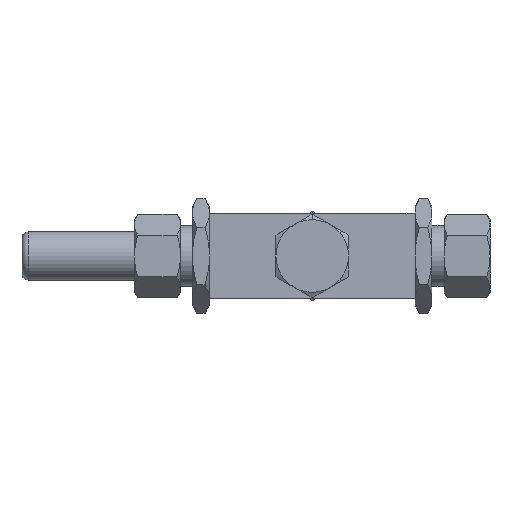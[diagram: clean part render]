
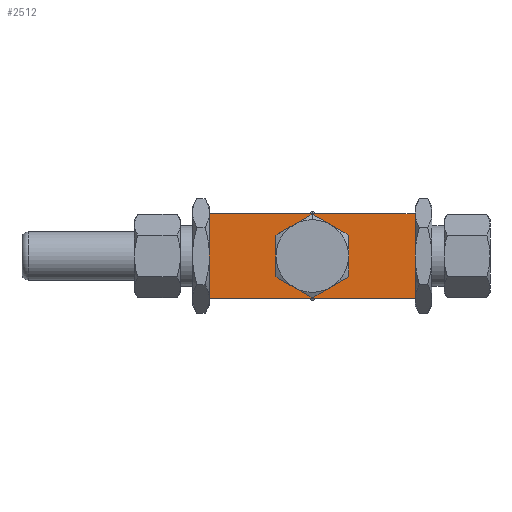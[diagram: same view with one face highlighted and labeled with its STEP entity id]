
A CAD part, front view. The second image highlights one B-rep face of the part: STEP entity #2512.
In plain terms, the highlighted planar face has unit normal (0, -1, 0).
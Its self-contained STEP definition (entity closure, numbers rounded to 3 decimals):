
#17 = CARTESIAN_POINT ( 'NONE',  ( -7.5, -32.5, 12.99 ) ) ;
#103 = CARTESIAN_POINT ( 'NONE',  ( -42.5, -32.5, 17.5 ) ) ;
#182 = CARTESIAN_POINT ( 'NONE',  ( -7.5, -32.5, -12.99 ) ) ;
#234 = VERTEX_POINT ( 'NONE', #2043 ) ;
#237 = EDGE_CURVE ( 'NONE', #4442, #5102, #5067, .T. ) ;
#281 = AXIS2_PLACEMENT_3D ( 'NONE', #408, #848, #914 ) ;
#292 = DIRECTION ( 'NONE',  ( 0., 0., -1. ) ) ;
#305 = VERTEX_POINT ( 'NONE', #4197 ) ;
#337 = ORIENTED_EDGE ( 'NONE', *, *, #2883, .F. ) ;
#352 = DIRECTION ( 'NONE',  ( 0., 0., -1. ) ) ;
#403 = EDGE_CURVE ( 'NONE', #606, #305, #5233, .T. ) ;
#408 = CARTESIAN_POINT ( 'NONE',  ( 0., -32.5, 0. ) ) ;
#436 = EDGE_CURVE ( 'NONE', #5458, #3317, #5936, .T. ) ;
#606 = VERTEX_POINT ( 'NONE', #4925 ) ;
#729 = ORIENTED_EDGE ( 'NONE', *, *, #2116, .F. ) ;
#839 = ORIENTED_EDGE ( 'NONE', *, *, #2951, .F. ) ;
#848 = DIRECTION ( 'NONE',  ( 0., -1., 0. ) ) ;
#857 = AXIS2_PLACEMENT_3D ( 'NONE', #1243, #5201, #352 ) ;
#880 = CARTESIAN_POINT ( 'NONE',  ( -42.5, -32.5, -17.5 ) ) ;
#914 = DIRECTION ( 'NONE',  ( 0., 0., -1. ) ) ;
#975 = EDGE_CURVE ( 'NONE', #4068, #3087, #1511, .T. ) ;
#1178 = EDGE_CURVE ( 'NONE', #4442, #606, #4503, .T. ) ;
#1243 = CARTESIAN_POINT ( 'NONE',  ( 0., -32.5, 0. ) ) ;
#1433 = CARTESIAN_POINT ( 'NONE',  ( 7.5, -32.5, 12.99 ) ) ;
#1487 = VERTEX_POINT ( 'NONE', #1433 ) ;
#1511 = CIRCLE ( 'NONE', #4993, 15. ) ;
#1526 = DIRECTION ( 'NONE',  ( 0., 0., 1. ) ) ;
#1583 = CARTESIAN_POINT ( 'NONE',  ( 0., -32.5, -15. ) ) ;
#1692 = DIRECTION ( 'NONE',  ( 0., -1., 0. ) ) ;
#1804 = ORIENTED_EDGE ( 'NONE', *, *, #5145, .F. ) ;
#1898 = ORIENTED_EDGE ( 'NONE', *, *, #6265, .F. ) ;
#1929 = DIRECTION ( 'NONE',  ( 0., 0., -1. ) ) ;
#2043 = CARTESIAN_POINT ( 'NONE',  ( 7.5, -32.5, -12.99 ) ) ;
#2045 = CARTESIAN_POINT ( 'NONE',  ( 0., -32.5, 0. ) ) ;
#2051 = DIRECTION ( 'NONE',  ( 0., 0., -1. ) ) ;
#2078 = CARTESIAN_POINT ( 'NONE',  ( -15., -32.5, 0. ) ) ;
#2095 = CARTESIAN_POINT ( 'NONE',  ( -42.5, -32.5, 17.5 ) ) ;
#2116 = EDGE_CURVE ( 'NONE', #234, #3125, #5780, .T. ) ;
#2499 = FACE_OUTER_BOUND ( 'NONE', #2773, .T. ) ;
#2510 = CARTESIAN_POINT ( 'NONE',  ( 42.5, -32.5, 17.5 ) ) ;
#2512 = ADVANCED_FACE ( 'NONE', ( #2499, #6337 ), #3011, .F. ) ;
#2717 = EDGE_LOOP ( 'NONE', ( #1804, #1898, #729, #839, #4260, #4453, #3946 ) ) ;
#2773 = EDGE_LOOP ( 'NONE', ( #3103, #337, #6330, #4705 ) ) ;
#2861 = AXIS2_PLACEMENT_3D ( 'NONE', #5926, #3485, #5450 ) ;
#2883 = EDGE_CURVE ( 'NONE', #5102, #305, #3764, .T. ) ;
#2920 = CARTESIAN_POINT ( 'NONE',  ( -42.5, -32.5, 17.5 ) ) ;
#2951 = EDGE_CURVE ( 'NONE', #3317, #234, #5356, .T. ) ;
#3011 = PLANE ( 'NONE',  #3712 ) ;
#3087 = VERTEX_POINT ( 'NONE', #2078 ) ;
#3088 = CARTESIAN_POINT ( 'NONE',  ( 15., -32.5, 0. ) ) ;
#3103 = ORIENTED_EDGE ( 'NONE', *, *, #403, .T. ) ;
#3125 = VERTEX_POINT ( 'NONE', #3088 ) ;
#3317 = VERTEX_POINT ( 'NONE', #1583 ) ;
#3354 = DIRECTION ( 'NONE',  ( 0., 0., -1. ) ) ;
#3374 = DIRECTION ( 'NONE',  ( 1., 0., 0. ) ) ;
#3408 = DIRECTION ( 'NONE',  ( 0., 1., 0. ) ) ;
#3412 = AXIS2_PLACEMENT_3D ( 'NONE', #4196, #3690, #5195 ) ;
#3442 = CIRCLE ( 'NONE', #857, 15. ) ;
#3485 = DIRECTION ( 'NONE',  ( 0., -1., 0. ) ) ;
#3510 = DIRECTION ( 'NONE',  ( 0., -1., 0. ) ) ;
#3690 = DIRECTION ( 'NONE',  ( 0., -1., 0. ) ) ;
#3712 = AXIS2_PLACEMENT_3D ( 'NONE', #2920, #3408, #1526 ) ;
#3764 = LINE ( 'NONE', #4774, #5675 ) ;
#3946 = ORIENTED_EDGE ( 'NONE', *, *, #975, .F. ) ;
#4068 = VERTEX_POINT ( 'NONE', #17 ) ;
#4196 = CARTESIAN_POINT ( 'NONE',  ( 0., -32.5, 0. ) ) ;
#4197 = CARTESIAN_POINT ( 'NONE',  ( 42.5, -32.5, -17.5 ) ) ;
#4260 = ORIENTED_EDGE ( 'NONE', *, *, #436, .F. ) ;
#4349 = CARTESIAN_POINT ( 'NONE',  ( 0., -32.5, 0. ) ) ;
#4442 = VERTEX_POINT ( 'NONE', #2095 ) ;
#4453 = ORIENTED_EDGE ( 'NONE', *, *, #4982, .F. ) ;
#4502 = CIRCLE ( 'NONE', #2861, 15. ) ;
#4503 = LINE ( 'NONE', #103, #4887 ) ;
#4578 = DIRECTION ( 'NONE',  ( 1., 0., 0. ) ) ;
#4705 = ORIENTED_EDGE ( 'NONE', *, *, #1178, .T. ) ;
#4715 = AXIS2_PLACEMENT_3D ( 'NONE', #2045, #3510, #5409 ) ;
#4774 = CARTESIAN_POINT ( 'NONE',  ( 42.5, -32.5, 17.5 ) ) ;
#4887 = VECTOR ( 'NONE', #2051, 1000. ) ;
#4925 = CARTESIAN_POINT ( 'NONE',  ( -42.5, -32.5, -17.5 ) ) ;
#4982 = EDGE_CURVE ( 'NONE', #3087, #5458, #4502, .T. ) ;
#4993 = AXIS2_PLACEMENT_3D ( 'NONE', #4349, #5382, #1929 ) ;
#5067 = LINE ( 'NONE', #5989, #5837 ) ;
#5102 = VERTEX_POINT ( 'NONE', #2510 ) ;
#5145 = EDGE_CURVE ( 'NONE', #1487, #4068, #5434, .T. ) ;
#5195 = DIRECTION ( 'NONE',  ( 0., 0., -1. ) ) ;
#5201 = DIRECTION ( 'NONE',  ( 0., -1., 0. ) ) ;
#5233 = LINE ( 'NONE', #880, #6145 ) ;
#5334 = AXIS2_PLACEMENT_3D ( 'NONE', #5599, #1692, #292 ) ;
#5356 = CIRCLE ( 'NONE', #4715, 15. ) ;
#5382 = DIRECTION ( 'NONE',  ( 0., -1., 0. ) ) ;
#5409 = DIRECTION ( 'NONE',  ( 0., 0., -1. ) ) ;
#5434 = CIRCLE ( 'NONE', #5334, 15. ) ;
#5450 = DIRECTION ( 'NONE',  ( 0., 0., -1. ) ) ;
#5458 = VERTEX_POINT ( 'NONE', #182 ) ;
#5599 = CARTESIAN_POINT ( 'NONE',  ( 0., -32.5, 0. ) ) ;
#5675 = VECTOR ( 'NONE', #3354, 1000. ) ;
#5780 = CIRCLE ( 'NONE', #3412, 15. ) ;
#5837 = VECTOR ( 'NONE', #4578, 1000. ) ;
#5926 = CARTESIAN_POINT ( 'NONE',  ( 0., -32.5, 0. ) ) ;
#5936 = CIRCLE ( 'NONE', #281, 15. ) ;
#5989 = CARTESIAN_POINT ( 'NONE',  ( -42.5, -32.5, 17.5 ) ) ;
#6145 = VECTOR ( 'NONE', #3374, 1000. ) ;
#6265 = EDGE_CURVE ( 'NONE', #3125, #1487, #3442, .T. ) ;
#6330 = ORIENTED_EDGE ( 'NONE', *, *, #237, .F. ) ;
#6337 = FACE_BOUND ( 'NONE', #2717, .T. ) ;
